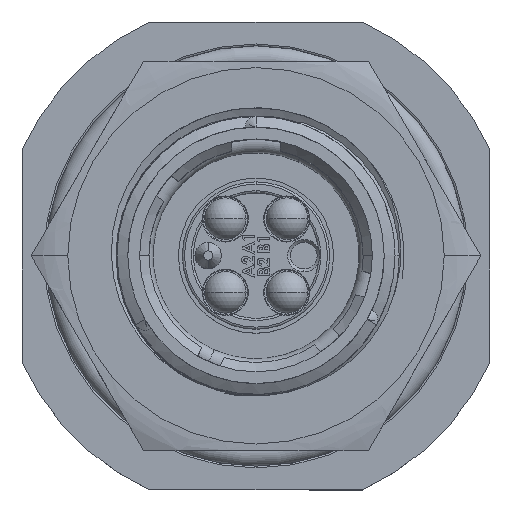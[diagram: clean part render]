
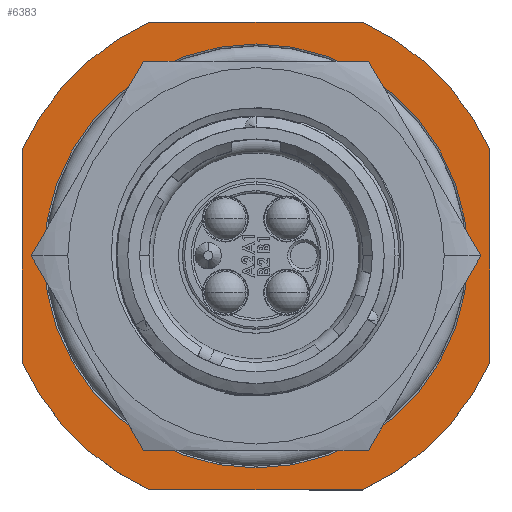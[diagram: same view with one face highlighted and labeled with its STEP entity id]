
A CAD part, top view. The second image highlights one B-rep face of the part: STEP entity #6383.
In plain terms, the highlighted planar face has unit normal (0, 0, 1).
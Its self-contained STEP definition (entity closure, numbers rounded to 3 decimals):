
#374 = CARTESIAN_POINT ( 'NONE',  ( 7.219, -15.9, -23.241 ) ) ;
#684 = VERTEX_POINT ( 'NONE', #2670 ) ;
#808 = CIRCLE ( 'NONE', #5607, 14.407 ) ;
#1086 = DIRECTION ( 'NONE',  ( -1., 0., 0. ) ) ;
#1222 = AXIS2_PLACEMENT_3D ( 'NONE', #19252, #1855, #23260 ) ;
#1225 = VERTEX_POINT ( 'NONE', #19757 ) ;
#1652 = DIRECTION ( 'NONE',  ( 0., -1., 0. ) ) ;
#1694 = DIRECTION ( 'NONE',  ( -1., 0., 0. ) ) ;
#1855 = DIRECTION ( 'NONE',  ( 0., 0., -1. ) ) ;
#2246 = CARTESIAN_POINT ( 'NONE',  ( 0., 0., -23.241 ) ) ;
#2670 = CARTESIAN_POINT ( 'NONE',  ( 14.407, 0., -23.241 ) ) ;
#2984 = VERTEX_POINT ( 'NONE', #374 ) ;
#3580 = ORIENTED_EDGE ( 'NONE', *, *, #5081, .T. ) ;
#3590 = ORIENTED_EDGE ( 'NONE', *, *, #9201, .F. ) ;
#4229 = EDGE_LOOP ( 'NONE', ( #14964, #3580 ) ) ;
#4238 = LINE ( 'NONE', #8222, #24017 ) ;
#4409 = DIRECTION ( 'NONE',  ( 0., 0., -1. ) ) ;
#4535 = EDGE_CURVE ( 'NONE', #10747, #1225, #23573, .T. ) ;
#4795 = ORIENTED_EDGE ( 'NONE', *, *, #21648, .F. ) ;
#5081 = EDGE_CURVE ( 'NONE', #684, #6699, #808, .T. ) ;
#5607 = AXIS2_PLACEMENT_3D ( 'NONE', #20239, #8833, #1086 ) ;
#5838 = CIRCLE ( 'NONE', #20218, 17.462 ) ;
#6136 = DIRECTION ( 'NONE',  ( 0., 0., -1. ) ) ;
#6383 = ADVANCED_FACE ( 'NONE', ( #23133, #11593 ), #9473, .F. ) ;
#6493 = ORIENTED_EDGE ( 'NONE', *, *, #20858, .F. ) ;
#6699 = VERTEX_POINT ( 'NONE', #22581 ) ;
#6924 = LINE ( 'NONE', #20819, #10469 ) ;
#7080 = CIRCLE ( 'NONE', #15077, 14.407 ) ;
#7206 = EDGE_CURVE ( 'NONE', #2984, #16188, #4238, .T. ) ;
#8222 = CARTESIAN_POINT ( 'NONE',  ( 7.219, -15.9, -23.241 ) ) ;
#8833 = DIRECTION ( 'NONE',  ( 0., 0., -1. ) ) ;
#9201 = EDGE_CURVE ( 'NONE', #23656, #10747, #24771, .T. ) ;
#9302 = EDGE_CURVE ( 'NONE', #1225, #10419, #9357, .T. ) ;
#9357 = LINE ( 'NONE', #22777, #23522 ) ;
#9367 = DIRECTION ( 'NONE',  ( -1., 0., 0. ) ) ;
#9385 = ORIENTED_EDGE ( 'NONE', *, *, #9302, .F. ) ;
#9473 = PLANE ( 'NONE',  #1222 ) ;
#9733 = CARTESIAN_POINT ( 'NONE',  ( 0., 0., -23.241 ) ) ;
#9810 = CARTESIAN_POINT ( 'NONE',  ( 15.9, -7.219, -23.241 ) ) ;
#10105 = EDGE_LOOP ( 'NONE', ( #18628, #3590, #4795, #24623, #23172, #22798, #6493, #9385 ) ) ;
#10360 = AXIS2_PLACEMENT_3D ( 'NONE', #21319, #4409, #17299 ) ;
#10419 = VERTEX_POINT ( 'NONE', #13187 ) ;
#10469 = VECTOR ( 'NONE', #1652, 1000. ) ;
#10747 = VERTEX_POINT ( 'NONE', #20589 ) ;
#11284 = CARTESIAN_POINT ( 'NONE',  ( 15.9, 7.219, -23.241 ) ) ;
#11480 = VECTOR ( 'NONE', #15510, 1000. ) ;
#11593 = FACE_OUTER_BOUND ( 'NONE', #10105, .T. ) ;
#11965 = EDGE_CURVE ( 'NONE', #17178, #2984, #5838, .T. ) ;
#11974 = DIRECTION ( 'NONE',  ( -1., 0., 0. ) ) ;
#13187 = CARTESIAN_POINT ( 'NONE',  ( 7.219, 15.9, -23.241 ) ) ;
#13618 = DIRECTION ( 'NONE',  ( 0., 0., -1. ) ) ;
#14964 = ORIENTED_EDGE ( 'NONE', *, *, #16301, .T. ) ;
#15077 = AXIS2_PLACEMENT_3D ( 'NONE', #18842, #20366, #1694 ) ;
#15510 = DIRECTION ( 'NONE',  ( 0., 1., 0. ) ) ;
#15799 = CIRCLE ( 'NONE', #24208, 17.462 ) ;
#15879 = DIRECTION ( 'NONE',  ( 1., 0., 0. ) ) ;
#15899 = CARTESIAN_POINT ( 'NONE',  ( -15.9, -7.219, -23.241 ) ) ;
#15979 = CARTESIAN_POINT ( 'NONE',  ( -7.219, -15.9, -23.241 ) ) ;
#16188 = VERTEX_POINT ( 'NONE', #15979 ) ;
#16301 = EDGE_CURVE ( 'NONE', #6699, #684, #7080, .T. ) ;
#17178 = VERTEX_POINT ( 'NONE', #9810 ) ;
#17255 = CARTESIAN_POINT ( 'NONE',  ( -15.9, 7.219, -23.241 ) ) ;
#17299 = DIRECTION ( 'NONE',  ( -1., 0., 0. ) ) ;
#17562 = CARTESIAN_POINT ( 'NONE',  ( 0., 0., -23.241 ) ) ;
#18628 = ORIENTED_EDGE ( 'NONE', *, *, #4535, .F. ) ;
#18810 = AXIS2_PLACEMENT_3D ( 'NONE', #2246, #6136, #9367 ) ;
#18842 = CARTESIAN_POINT ( 'NONE',  ( 0., 0., -23.241 ) ) ;
#19252 = CARTESIAN_POINT ( 'NONE',  ( 0., 0., -23.241 ) ) ;
#19359 = EDGE_CURVE ( 'NONE', #22660, #17178, #6924, .T. ) ;
#19573 = DIRECTION ( 'NONE',  ( -1., 0., 0. ) ) ;
#19699 = DIRECTION ( 'NONE',  ( 0., 0., -1. ) ) ;
#19757 = CARTESIAN_POINT ( 'NONE',  ( -7.219, 15.9, -23.241 ) ) ;
#20218 = AXIS2_PLACEMENT_3D ( 'NONE', #17562, #19699, #19573 ) ;
#20239 = CARTESIAN_POINT ( 'NONE',  ( 0., 0., -23.241 ) ) ;
#20366 = DIRECTION ( 'NONE',  ( 0., 0., -1. ) ) ;
#20419 = CIRCLE ( 'NONE', #18810, 17.462 ) ;
#20589 = CARTESIAN_POINT ( 'NONE',  ( -15.9, 7.219, -23.241 ) ) ;
#20819 = CARTESIAN_POINT ( 'NONE',  ( 15.9, 7.219, -23.241 ) ) ;
#20858 = EDGE_CURVE ( 'NONE', #10419, #22660, #20419, .T. ) ;
#21319 = CARTESIAN_POINT ( 'NONE',  ( 0., 0., -23.241 ) ) ;
#21508 = DIRECTION ( 'NONE',  ( -1., 0., 0. ) ) ;
#21648 = EDGE_CURVE ( 'NONE', #16188, #23656, #15799, .T. ) ;
#22581 = CARTESIAN_POINT ( 'NONE',  ( -14.407, 0., -23.241 ) ) ;
#22660 = VERTEX_POINT ( 'NONE', #11284 ) ;
#22777 = CARTESIAN_POINT ( 'NONE',  ( 7.219, 15.9, -23.241 ) ) ;
#22798 = ORIENTED_EDGE ( 'NONE', *, *, #19359, .F. ) ;
#23133 = FACE_BOUND ( 'NONE', #4229, .T. ) ;
#23172 = ORIENTED_EDGE ( 'NONE', *, *, #11965, .F. ) ;
#23260 = DIRECTION ( 'NONE',  ( -1., 0., 0. ) ) ;
#23522 = VECTOR ( 'NONE', #15879, 1000. ) ;
#23573 = CIRCLE ( 'NONE', #10360, 17.462 ) ;
#23656 = VERTEX_POINT ( 'NONE', #15899 ) ;
#24017 = VECTOR ( 'NONE', #11974, 1000. ) ;
#24208 = AXIS2_PLACEMENT_3D ( 'NONE', #9733, #13618, #21508 ) ;
#24623 = ORIENTED_EDGE ( 'NONE', *, *, #7206, .F. ) ;
#24771 = LINE ( 'NONE', #17255, #11480 ) ;
